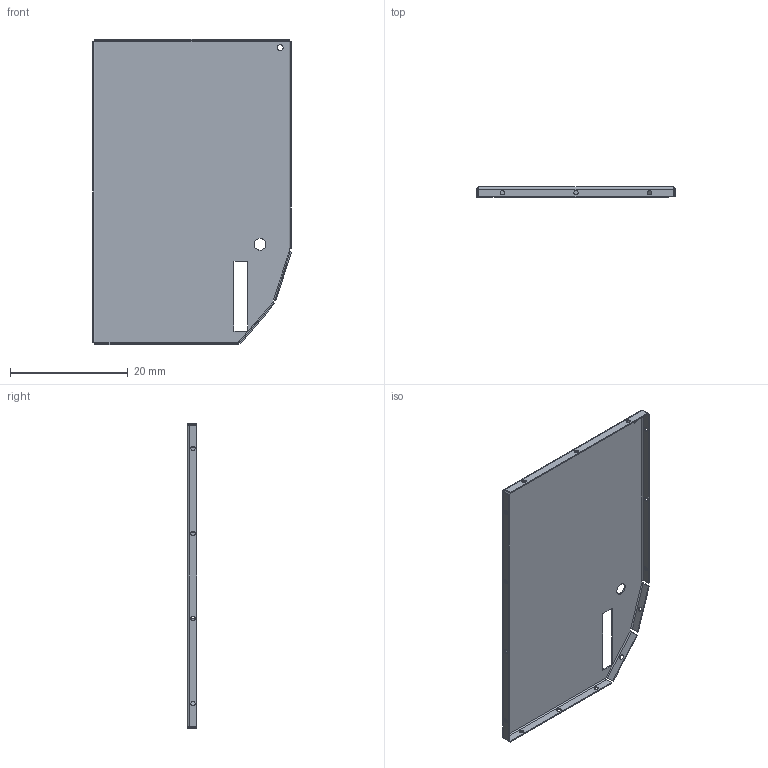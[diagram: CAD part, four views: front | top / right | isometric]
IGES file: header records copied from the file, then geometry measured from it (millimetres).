
Start section:  PTC IGES file: gtc01-a-mcs07-bb-cover_prt.igs
Global section: file name: gtc01-a-mcs07-bb-cover_prt.igs; native system: Pro/ENGINEER by Parametric Technology Corporation; preprocessor: 2006170; author: GRA; organization: Unknown; date: 20080630.105146; units: millimetre
Bounding box: 33.72 x 1.65 x 51.85 mm (x, y, z)
Surface area: 3788 mm2 (no closed solid volume)
Topology: 0 solids, 0 shells, 110 faces, 552 edges, 552 vertices
Faces by surface type: bspline 64, revolution 46
